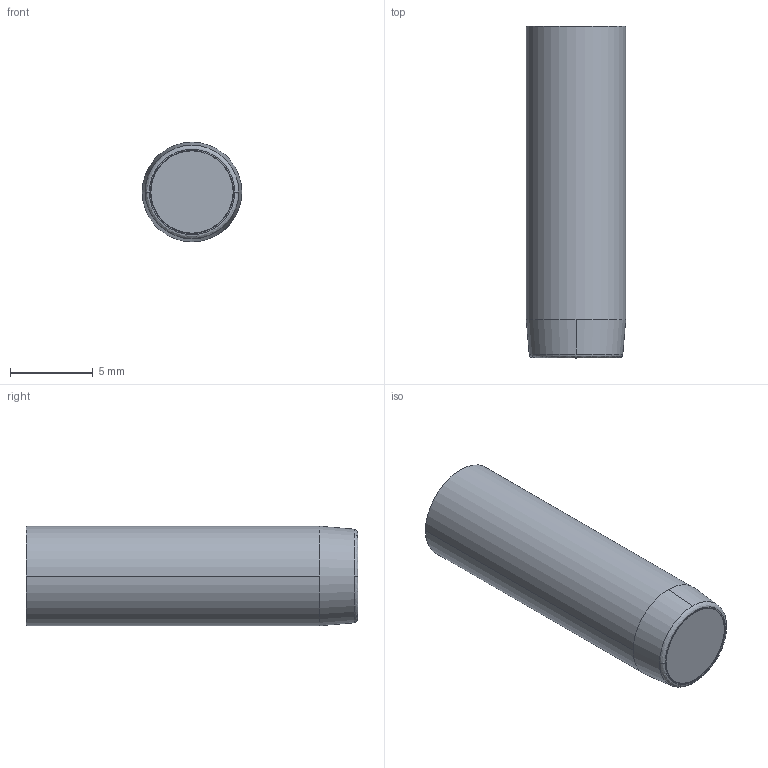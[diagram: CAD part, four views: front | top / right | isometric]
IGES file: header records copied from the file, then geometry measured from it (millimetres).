
Start section: START RECORD GO HERE.
Global section: file name: fa063200.igs; native system: DASSAULT SYSTEMES CATIA V5 R20 - www.3ds.com; preprocessor: CATIA Version 5 Release 20 ; author: Utente; organization: NB04-ASUS; date: 20201108.083906; units: millimetre
Bounding box: 6 x 20 x 6 mm (x, y, z)
Surface area: 1122.2 mm2 (no closed solid volume)
Topology: 0 solids, 0 shells, 204 faces, 896 edges, 894 vertices
Faces by surface type: bspline 100, revolution 60, plane 44
